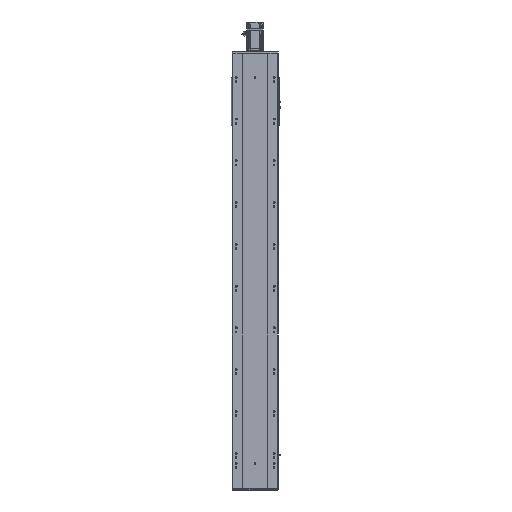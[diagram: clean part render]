
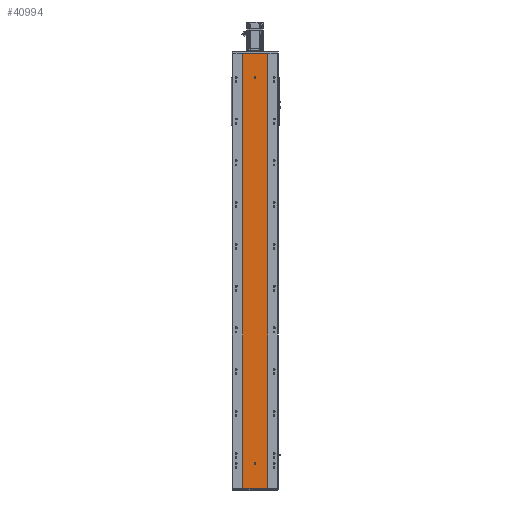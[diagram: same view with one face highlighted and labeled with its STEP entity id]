
A CAD part, front view. The second image highlights one B-rep face of the part: STEP entity #40994.
In plain terms, the highlighted planar face has unit normal (0, -1, 0).
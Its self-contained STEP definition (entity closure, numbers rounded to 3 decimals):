
#1322 = DIRECTION ( 'NONE',  ( 0., 0., -1. ) ) ;
#2422 = ORIENTED_EDGE ( 'NONE', *, *, #56054, .F. ) ;
#3160 = EDGE_CURVE ( 'NONE', #45193, #14137, #29098, .T. ) ;
#3408 = CARTESIAN_POINT ( 'NONE',  ( -60., 0., 2082. ) ) ;
#5001 = AXIS2_PLACEMENT_3D ( 'NONE', #20123, #61822, #62627 ) ;
#5487 = VECTOR ( 'NONE', #48906, 1000. ) ;
#6222 = DIRECTION ( 'NONE',  ( 0., 0., -1. ) ) ;
#6339 = DIRECTION ( 'NONE',  ( 0., 0., -1. ) ) ;
#6945 = CARTESIAN_POINT ( 'NONE',  ( 4., 0., 116.5 ) ) ;
#7007 = CIRCLE ( 'NONE', #26837, 4. ) ;
#7974 = DIRECTION ( 'NONE',  ( 0., 0., 1. ) ) ;
#9045 = ORIENTED_EDGE ( 'NONE', *, *, #11807, .F. ) ;
#9248 = VERTEX_POINT ( 'NONE', #37897 ) ;
#9653 = CARTESIAN_POINT ( 'NONE',  ( 0., 0., 1972. ) ) ;
#10194 = CARTESIAN_POINT ( 'NONE',  ( -60., 0., 2082. ) ) ;
#11615 = CARTESIAN_POINT ( 'NONE',  ( -60., 0., 2082. ) ) ;
#11807 = EDGE_CURVE ( 'NONE', #13993, #46041, #26908, .T. ) ;
#12049 = EDGE_LOOP ( 'NONE', ( #2422, #31705, #51485, #16831, #25924 ) ) ;
#13583 = VECTOR ( 'NONE', #19125, 1000. ) ;
#13993 = VERTEX_POINT ( 'NONE', #28155 ) ;
#14137 = VERTEX_POINT ( 'NONE', #6945 ) ;
#16743 = VERTEX_POINT ( 'NONE', #49108 ) ;
#16746 = EDGE_CURVE ( 'NONE', #16743, #26849, #33537, .T. ) ;
#16831 = ORIENTED_EDGE ( 'NONE', *, *, #16746, .F. ) ;
#18756 = LINE ( 'NONE', #54722, #5487 ) ;
#18827 = VERTEX_POINT ( 'NONE', #78330 ) ;
#18862 = CARTESIAN_POINT ( 'NONE',  ( -60., 0., 0. ) ) ;
#19125 = DIRECTION ( 'NONE',  ( 1., 0., 0. ) ) ;
#20123 = CARTESIAN_POINT ( 'NONE',  ( 0., 0., 116.5 ) ) ;
#22468 = DIRECTION ( 'NONE',  ( 0., 0., -1. ) ) ;
#24428 = DIRECTION ( 'NONE',  ( 0., 0., -1. ) ) ;
#25004 = LINE ( 'NONE', #18862, #13583 ) ;
#25158 = CIRCLE ( 'NONE', #32026, 4. ) ;
#25924 = ORIENTED_EDGE ( 'NONE', *, *, #76160, .F. ) ;
#25949 = ORIENTED_EDGE ( 'NONE', *, *, #36869, .T. ) ;
#26390 = DIRECTION ( 'NONE',  ( 0., 0., -1. ) ) ;
#26661 = VECTOR ( 'NONE', #7974, 1000. ) ;
#26837 = AXIS2_PLACEMENT_3D ( 'NONE', #77210, #71430, #47879 ) ;
#26849 = VERTEX_POINT ( 'NONE', #76275 ) ;
#26908 = CIRCLE ( 'NONE', #52999, 4. ) ;
#28155 = CARTESIAN_POINT ( 'NONE',  ( 0., 0., 1964. ) ) ;
#28617 = EDGE_CURVE ( 'NONE', #70637, #9248, #18756, .T. ) ;
#29098 = CIRCLE ( 'NONE', #5001, 4. ) ;
#29482 = LINE ( 'NONE', #73053, #44622 ) ;
#29538 = ORIENTED_EDGE ( 'NONE', *, *, #36448, .F. ) ;
#30935 = CARTESIAN_POINT ( 'NONE',  ( -4., 0., 116.5 ) ) ;
#31705 = ORIENTED_EDGE ( 'NONE', *, *, #3160, .F. ) ;
#31919 = FACE_BOUND ( 'NONE', #12049, .T. ) ;
#32026 = AXIS2_PLACEMENT_3D ( 'NONE', #45441, #33308, #22468 ) ;
#32160 = CARTESIAN_POINT ( 'NONE',  ( 0., 0., 1968. ) ) ;
#33308 = DIRECTION ( 'NONE',  ( 0., -1., 0. ) ) ;
#33537 = LINE ( 'NONE', #30935, #59008 ) ;
#33716 = ORIENTED_EDGE ( 'NONE', *, *, #28617, .F. ) ;
#34212 = PLANE ( 'NONE',  #36480 ) ;
#36448 = EDGE_CURVE ( 'NONE', #46041, #13993, #65418, .T. ) ;
#36480 = AXIS2_PLACEMENT_3D ( 'NONE', #10194, #64576, #76708 ) ;
#36869 = EDGE_CURVE ( 'NONE', #70637, #18827, #42695, .T. ) ;
#37897 = CARTESIAN_POINT ( 'NONE',  ( 60., 0., 2082. ) ) ;
#38492 = FACE_BOUND ( 'NONE', #55054, .T. ) ;
#39469 = FACE_OUTER_BOUND ( 'NONE', #48993, .T. ) ;
#40469 = CARTESIAN_POINT ( 'NONE',  ( 4., 0., 119.5 ) ) ;
#40994 = ADVANCED_FACE ( 'NONE', ( #38492, #31919, #39469 ), #34212, .F. ) ;
#42410 = EDGE_CURVE ( 'NONE', #18827, #64767, #25004, .T. ) ;
#42613 = DIRECTION ( 'NONE',  ( 0., -1., 0. ) ) ;
#42695 = LINE ( 'NONE', #11615, #54025 ) ;
#43752 = DIRECTION ( 'NONE',  ( 0., -1., 0. ) ) ;
#44622 = VECTOR ( 'NONE', #6222, 1000. ) ;
#45193 = VERTEX_POINT ( 'NONE', #53037 ) ;
#45441 = CARTESIAN_POINT ( 'NONE',  ( 0., 0., 119.5 ) ) ;
#45824 = AXIS2_PLACEMENT_3D ( 'NONE', #73803, #42613, #24428 ) ;
#46041 = VERTEX_POINT ( 'NONE', #9653 ) ;
#47879 = DIRECTION ( 'NONE',  ( 0., 0., -1. ) ) ;
#48906 = DIRECTION ( 'NONE',  ( 1., 0., 0. ) ) ;
#48993 = EDGE_LOOP ( 'NONE', ( #65237, #59249, #33716, #25949 ) ) ;
#49108 = CARTESIAN_POINT ( 'NONE',  ( -4., 0., 119.5 ) ) ;
#51485 = ORIENTED_EDGE ( 'NONE', *, *, #52507, .F. ) ;
#52507 = EDGE_CURVE ( 'NONE', #26849, #45193, #7007, .T. ) ;
#52999 = AXIS2_PLACEMENT_3D ( 'NONE', #32160, #43752, #26390 ) ;
#53037 = CARTESIAN_POINT ( 'NONE',  ( 0., 0., 112.5 ) ) ;
#54025 = VECTOR ( 'NONE', #6339, 1000. ) ;
#54722 = CARTESIAN_POINT ( 'NONE',  ( -60., 0., 2082. ) ) ;
#55054 = EDGE_LOOP ( 'NONE', ( #9045, #29538 ) ) ;
#55388 = EDGE_CURVE ( 'NONE', #9248, #64767, #29482, .T. ) ;
#56054 = EDGE_CURVE ( 'NONE', #14137, #77190, #70989, .T. ) ;
#59008 = VECTOR ( 'NONE', #1322, 1000. ) ;
#59249 = ORIENTED_EDGE ( 'NONE', *, *, #55388, .F. ) ;
#61822 = DIRECTION ( 'NONE',  ( 0., -1., 0. ) ) ;
#62095 = CARTESIAN_POINT ( 'NONE',  ( 60., 0., 0. ) ) ;
#62627 = DIRECTION ( 'NONE',  ( 0., 0., -1. ) ) ;
#64576 = DIRECTION ( 'NONE',  ( 0., 1., 0. ) ) ;
#64767 = VERTEX_POINT ( 'NONE', #62095 ) ;
#65237 = ORIENTED_EDGE ( 'NONE', *, *, #42410, .T. ) ;
#65418 = CIRCLE ( 'NONE', #45824, 4. ) ;
#67659 = CARTESIAN_POINT ( 'NONE',  ( 4., 0., 116.5 ) ) ;
#70637 = VERTEX_POINT ( 'NONE', #3408 ) ;
#70989 = LINE ( 'NONE', #67659, #26661 ) ;
#71430 = DIRECTION ( 'NONE',  ( 0., -1., 0. ) ) ;
#73053 = CARTESIAN_POINT ( 'NONE',  ( 60., 0., 2082. ) ) ;
#73803 = CARTESIAN_POINT ( 'NONE',  ( 0., 0., 1968. ) ) ;
#76160 = EDGE_CURVE ( 'NONE', #77190, #16743, #25158, .T. ) ;
#76275 = CARTESIAN_POINT ( 'NONE',  ( -4., 0., 116.5 ) ) ;
#76708 = DIRECTION ( 'NONE',  ( 0., 0., 1. ) ) ;
#77190 = VERTEX_POINT ( 'NONE', #40469 ) ;
#77210 = CARTESIAN_POINT ( 'NONE',  ( 0., 0., 116.5 ) ) ;
#78330 = CARTESIAN_POINT ( 'NONE',  ( -60., 0., 0. ) ) ;
